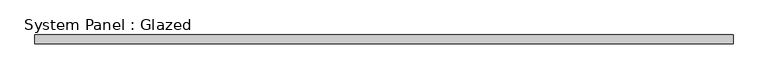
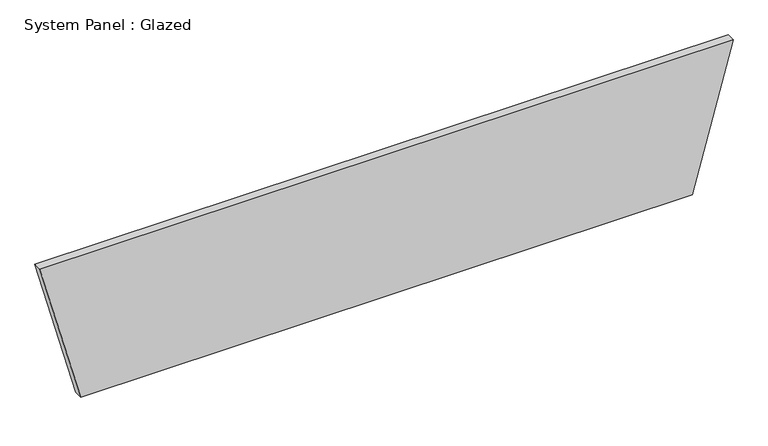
"""IFC4 building model written with IfcOpenShell, lengths in millimetres: plate geometry, System Panel : Glazed."""

from ifc_helpers import new_model, si_unit, frame, origin, place, context, project, spatial, polyline, outline, extrude, source, transform, mapped, element, save


def system_panel_glazed_f007ef7c(model_context):
    return source(origin(), model_context, "Body", "SweptSolid", [
        extrude(outline(polyline([(0.0, -902.7164343), (0.0, 902.7164343), (441.1288699, 1022.9408926), (441.1288699, -1022.9408926), (0.0, -902.7164343)])), frame((0.0, -44.45, 0.0), z_axis=(0.0, 1.0, 0.0), x_axis=(0.0, 0.0, 1.0)), (0.0, 0.0, 1.0), 25.4),
    ])


if __name__ == "__main__":
    model = new_model("IFC4")
    model_context = context("Model", 3, world=origin())
    ifc_project = project(units=[si_unit("LENGTHUNIT", "METRE", prefix="MILLI")], contexts=[model_context])
    site = spatial("IfcSite", under=ifc_project)
    building = spatial("IfcBuilding", under=site)
    placement = place(None, origin())
    system_panel_glazed_shape = system_panel_glazed_f007ef7c(model_context)
    element("IfcPlate", 1, ObjectType="System Panel : Glazed", at=placement, inside=building, context=model_context, shape_type="MappedRepresentation", body=[
        mapped(system_panel_glazed_shape, transform((0.0, 0.0, 0.0), x_axis=(1.0, 0.0, 0.0), y_axis=(0.0, 1.0, 0.0), z_axis=(0.0, 0.0, 1.0))),
    ])
    save(model, "model.ifc")
